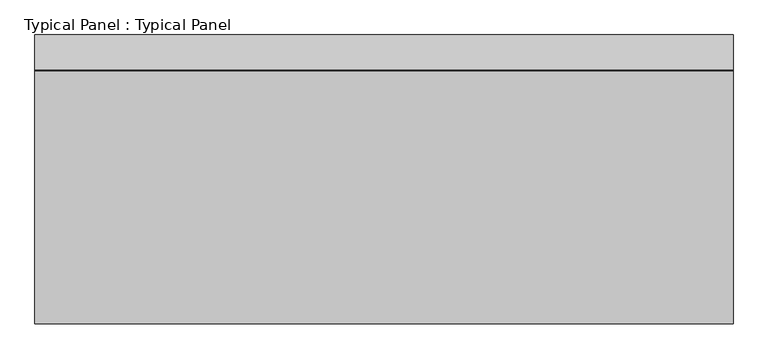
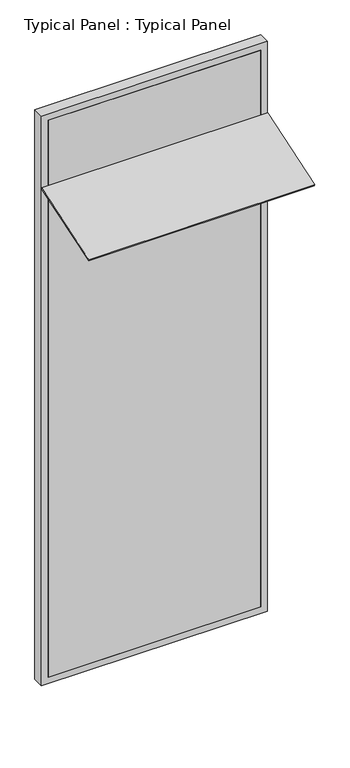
"""IFC4 building model written with IfcOpenShell, lengths in millimetres: plate geometry, Typical Panel : Typical Panel."""

from ifc_helpers import new_model, si_unit, frame, origin, place, context, project, spatial, polyline, outline, extrude, source, transform, mapped, element, save


def typical_panel_typical_panel_89c6637b(model_context):
    return source(origin(), model_context, "Body", "SweptSolid", [
        extrude(outline(polyline([(0.0, -569.9999999), (0.0, 0.0), (1500.0, 0.0), (1500.0, -569.9999999), (0.0, -569.9999999)])), frame((750.0, -544.0120443, 3314.349748), z_axis=(0.0, -0.3090169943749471, 0.9510565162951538), x_axis=(-1.0, 0.0, 0.0)), (0.0, 0.0, 1.0), 10.0),
        extrude(outline(polyline([(0.0, -750.0), (0.0, 750.0), (4000.0, 750.0), (4000.0, -750.0), (0.0, -750.0)]), holes=[polyline([(45.0, 705.0), (45.0, -705.0), (3955.0, -705.0), (3955.0, 705.0), (45.0, 705.0)])]), frame((0.0, -1.5797986, 0.0), z_axis=(0.0, 1.0, 0.0), x_axis=(0.0, 0.0, 1.0)), (0.0, 0.0, 1.0), 75.0),
        extrude(outline(polyline([(705.0, -1.5797986), (-705.0, -1.5797986), (-705.0, 13.4202014), (705.0, 13.4202014), (705.0, -1.5797986)])), frame((0.0, 0.0, 45.0), z_axis=(0.0, 0.0, 1.0), x_axis=(1.0, 0.0, 0.0)), (0.0, 0.0, 1.0), 3910.0),
    ])


if __name__ == "__main__":
    model = new_model("IFC4")
    model_context = context("Model", 3, world=origin())
    ifc_project = project(units=[si_unit("LENGTHUNIT", "METRE", prefix="MILLI")], contexts=[model_context])
    site = spatial("IfcSite", under=ifc_project)
    building = spatial("IfcBuilding", under=site)
    placement = place(None, origin())
    typical_panel_typical_panel_shape = typical_panel_typical_panel_89c6637b(model_context)
    element("IfcPlate", 1, ObjectType="Typical Panel : Typical Panel", at=placement, inside=building, context=model_context, shape_type="MappedRepresentation", body=[
        mapped(typical_panel_typical_panel_shape, transform((0.0, 0.0, 0.0), x_axis=(1.0, 0.0, 0.0), y_axis=(0.0, 1.0, 0.0), z_axis=(0.0, 0.0, 1.0))),
    ])
    save(model, "model.ifc")
